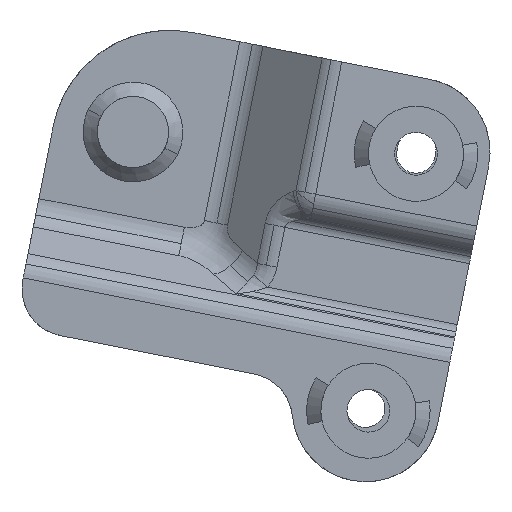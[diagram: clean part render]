
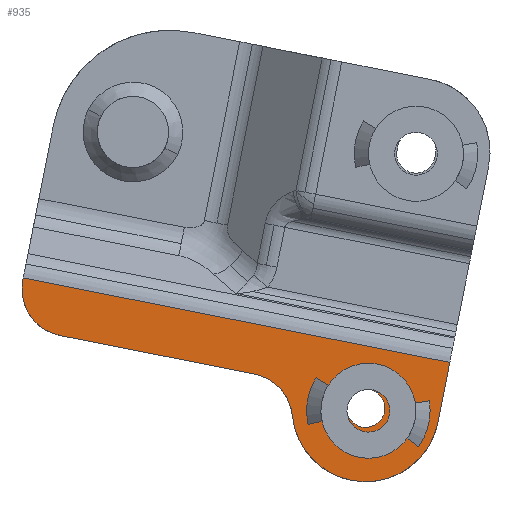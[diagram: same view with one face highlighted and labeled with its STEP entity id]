
A CAD part, front view. The second image highlights one B-rep face of the part: STEP entity #935.
In plain terms, the highlighted planar face has unit normal (0, -1, 0).
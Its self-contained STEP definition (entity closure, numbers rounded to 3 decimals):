
#398=AXIS2_PLACEMENT_3D('Circle Axis2P3D',#396,#397,$) ;
#776=AXIS2_PLACEMENT_3D('Circle Axis2P3D',#774,#775,$) ;
#800=AXIS2_PLACEMENT_3D('Circle Axis2P3D',#798,#799,$) ;
#817=AXIS2_PLACEMENT_3D('Circle Axis2P3D',#815,#816,$) ;
#872=AXIS2_PLACEMENT_3D('Circle Axis2P3D',#870,#871,$) ;
#914=AXIS2_PLACEMENT_3D('Plane Axis2P3D',#911,#912,#913) ;
#386=CARTESIAN_POINT('Vertex',(-46.141,-503.,561.594)) ;
#393=CARTESIAN_POINT('Vertex',(-38.711,-503.,549.561)) ;
#396=CARTESIAN_POINT('Axis2P3D Location',(-36.409,-503.,559.292)) ;
#413=CARTESIAN_POINT('Line Origine',(-46.097,-503.,561.779)) ;
#417=CARTESIAN_POINT('Vertex',(-46.053,-503.,561.965)) ;
#572=CARTESIAN_POINT('Vertex',(40.026,-503.,528.371)) ;
#727=CARTESIAN_POINT('Vertex',(42.991,-503.,540.907)) ;
#730=CARTESIAN_POINT('Line Origine',(41.509,-503.,534.639)) ;
#771=CARTESIAN_POINT('Vertex',(21.375,-503.,516.855)) ;
#774=CARTESIAN_POINT('Axis2P3D Location',(24.942,-503.,531.939)) ;
#795=CARTESIAN_POINT('Vertex',(9.476,-503.,530.912)) ;
#798=CARTESIAN_POINT('Axis2P3D Location',(24.942,-503.,531.939)) ;
#815=CARTESIAN_POINT('Axis2P3D Location',(-0.502,-503.,530.249)) ;
#819=CARTESIAN_POINT('Vertex',(1.8,-503.,539.981)) ;
#839=CARTESIAN_POINT('Line Origine',(-18.455,-503.,544.771)) ;
#860=CARTESIAN_POINT('Vertex',(20.892,-503.,531.939)) ;
#867=CARTESIAN_POINT('Vertex',(28.992,-503.,531.939)) ;
#870=CARTESIAN_POINT('Axis2P3D Location',(24.942,-503.,531.939)) ;
#888=CARTESIAN_POINT('Control Point',(28.992,-503.,531.939)) ;
#889=CARTESIAN_POINT('Control Point',(28.992,-503.,531.302)) ;
#890=CARTESIAN_POINT('Control Point',(28.867,-503.,530.666)) ;
#891=CARTESIAN_POINT('Control Point',(28.618,-503.,530.063)) ;
#892=CARTESIAN_POINT('Control Point',(27.894,-503.,528.986)) ;
#893=CARTESIAN_POINT('Control Point',(26.818,-503.,528.263)) ;
#894=CARTESIAN_POINT('Control Point',(26.215,-503.,528.013)) ;
#895=CARTESIAN_POINT('Control Point',(24.942,-503.,527.764)) ;
#896=CARTESIAN_POINT('Control Point',(23.67,-503.,528.013)) ;
#897=CARTESIAN_POINT('Control Point',(23.067,-503.,528.263)) ;
#898=CARTESIAN_POINT('Control Point',(21.99,-503.,528.986)) ;
#899=CARTESIAN_POINT('Control Point',(21.267,-503.,530.063)) ;
#900=CARTESIAN_POINT('Control Point',(21.017,-503.,530.666)) ;
#901=CARTESIAN_POINT('Control Point',(20.892,-503.,531.302)) ;
#902=CARTESIAN_POINT('Control Point',(20.892,-503.,531.939)) ;
#911=CARTESIAN_POINT('Axis2P3D Location',(46.355,-503.,555.133)) ;
#916=CARTESIAN_POINT('Line Origine',(-1.531,-503.,551.436)) ;
#397=DIRECTION('Axis2P3D Direction',(0.,1.,0.)) ;
#414=DIRECTION('Vector Direction',(-0.23,0.,-0.973)) ;
#731=DIRECTION('Vector Direction',(-0.23,0.,-0.973)) ;
#775=DIRECTION('Axis2P3D Direction',(0.,1.,0.)) ;
#799=DIRECTION('Axis2P3D Direction',(0.,1.,0.)) ;
#816=DIRECTION('Axis2P3D Direction',(0.,-1.,0.)) ;
#840=DIRECTION('Vector Direction',(-0.973,0.,0.23)) ;
#871=DIRECTION('Axis2P3D Direction',(0.,1.,0.)) ;
#912=DIRECTION('Axis2P3D Direction',(0.,-1.,0.)) ;
#913=DIRECTION('Axis2P3D XDirection',(-0.973,0.,0.23)) ;
#917=DIRECTION('Vector Direction',(-0.973,0.,0.23)) ;
#415=VECTOR('Line Direction',#414,1.) ;
#732=VECTOR('Line Direction',#731,1.) ;
#841=VECTOR('Line Direction',#840,1.) ;
#918=VECTOR('Line Direction',#917,1.) ;
#922=ORIENTED_EDGE('',*,*,#802,.F.) ;
#923=ORIENTED_EDGE('',*,*,#778,.T.) ;
#924=ORIENTED_EDGE('',*,*,#734,.F.) ;
#925=ORIENTED_EDGE('',*,*,#920,.T.) ;
#926=ORIENTED_EDGE('',*,*,#419,.T.) ;
#927=ORIENTED_EDGE('',*,*,#400,.T.) ;
#928=ORIENTED_EDGE('',*,*,#843,.F.) ;
#929=ORIENTED_EDGE('',*,*,#821,.F.) ;
#932=ORIENTED_EDGE('',*,*,#903,.T.) ;
#933=ORIENTED_EDGE('',*,*,#874,.T.) ;
#934=FACE_BOUND('',#931,.T.) ;
#935=ADVANCED_FACE('SHT0014366.1\\SHT0014367.1\\\X2\51E04F554F53\X0\.4',(#930,#934),#915,.T.) ;
#887=B_SPLINE_CURVE_WITH_KNOTS('',5,(#888,#889,#890,#891,#892,#893,#894,#895,#896,#897,#898,#899,#900,#901,#902),.UNSPECIFIED.,.F.,.U.,(6,3,3,3,6),(-6.362,-3.181,0.,3.181,6.362),.UNSPECIFIED.) ;
#399=CIRCLE('generated circle',#398,10.) ;
#777=CIRCLE('generated circle',#776,15.5) ;
#801=CIRCLE('generated circle',#800,15.5) ;
#818=CIRCLE('generated circle',#817,10.) ;
#873=CIRCLE('generated circle',#872,4.05) ;
#400=EDGE_CURVE('',#387,#394,#399,.F.) ;
#419=EDGE_CURVE('',#418,#387,#416,.T.) ;
#734=EDGE_CURVE('',#728,#573,#733,.T.) ;
#778=EDGE_CURVE('',#772,#573,#777,.F.) ;
#802=EDGE_CURVE('',#772,#796,#801,.T.) ;
#821=EDGE_CURVE('',#796,#820,#818,.T.) ;
#843=EDGE_CURVE('',#820,#394,#842,.T.) ;
#874=EDGE_CURVE('',#861,#868,#873,.T.) ;
#903=EDGE_CURVE('',#868,#861,#887,.T.) ;
#920=EDGE_CURVE('',#728,#418,#919,.T.) ;
#921=EDGE_LOOP('',(#922,#923,#924,#925,#926,#927,#928,#929)) ;
#931=EDGE_LOOP('',(#932,#933)) ;
#930=FACE_OUTER_BOUND('',#921,.T.) ;
#416=LINE('Line',#413,#415) ;
#733=LINE('Line',#730,#732) ;
#842=LINE('Line',#839,#841) ;
#919=LINE('Line',#916,#918) ;
#915=PLANE('Plane',#914) ;
#387=VERTEX_POINT('',#386) ;
#394=VERTEX_POINT('',#393) ;
#418=VERTEX_POINT('',#417) ;
#573=VERTEX_POINT('',#572) ;
#728=VERTEX_POINT('',#727) ;
#772=VERTEX_POINT('',#771) ;
#796=VERTEX_POINT('',#795) ;
#820=VERTEX_POINT('',#819) ;
#861=VERTEX_POINT('',#860) ;
#868=VERTEX_POINT('',#867) ;
